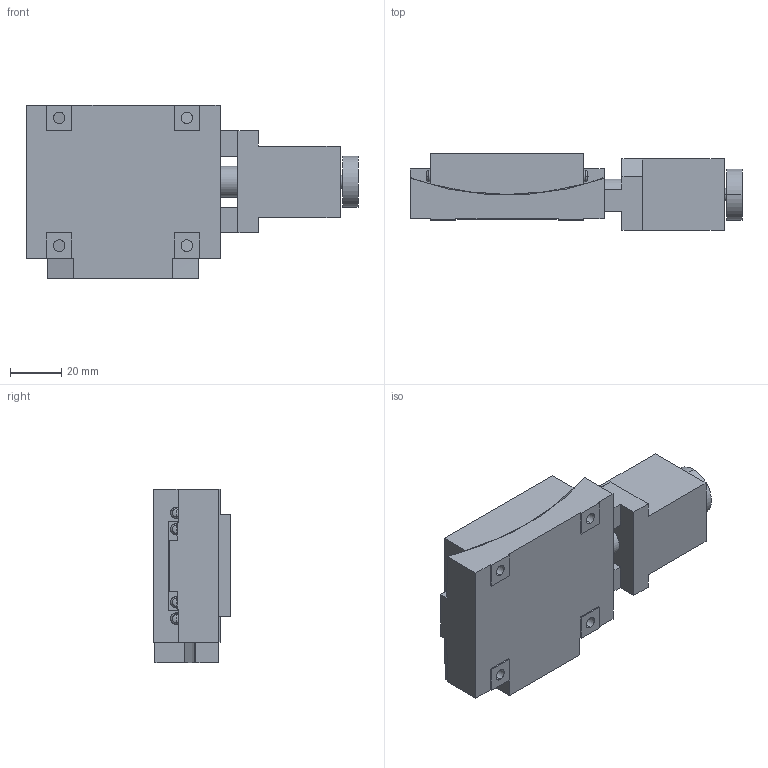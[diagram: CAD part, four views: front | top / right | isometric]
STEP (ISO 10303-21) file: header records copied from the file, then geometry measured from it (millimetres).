
FILE_DESCRIPTION (( 'STEP AP203' ), '1' );
FILE_NAME ('ATS-C612B-HM.STEP', '2015-03-05T01:10:07', ( '' ), ( '' ), 'SwSTEP 2.0', 'SolidWorks 2011', '' );
FILE_SCHEMA (( 'CONFIG_CONTROL_DESIGN' ));
Length unit declared in the file: millimetre
Products named in the file (3): ATS-C612B-HM-1; ATS-C612B-HM-2; ATS-C612B-HM
Assembly tree (2 placements, depth 2):
  ATS-C612B-HM
    ATS-C612B-HM-2
    ATS-C612B-HM-1
Bounding box: 130 x 30 x 68 mm (x, y, z)
Volume: 152110.7 mm3; surface area: 36500 mm2
Topology: 2 solids, 2 shells, 216 faces, 542 edges, 336 vertices
Faces by surface type: plane 92, cylinder 70, torus 32, cone 22
Entity records: 7183 total; most frequent: CARTESIAN_POINT 1645, DIRECTION 1144, ORIENTED_EDGE 1044, EDGE_CURVE 522, AXIS2_PLACEMENT_3D 427, VERTEX_POINT 336, VECTOR 290, LINE 290
